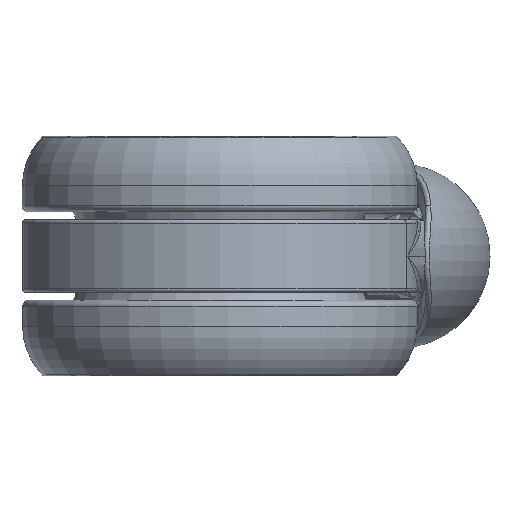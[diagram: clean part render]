
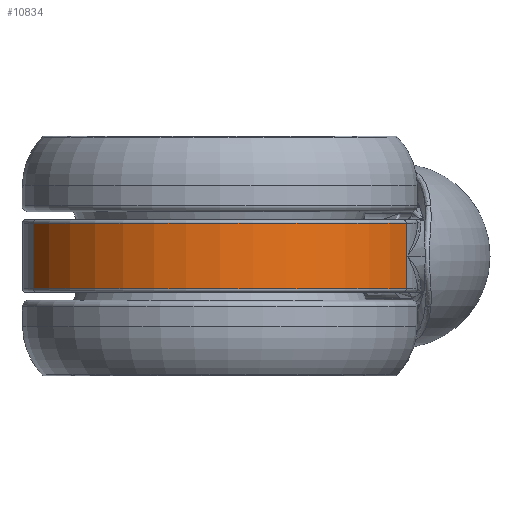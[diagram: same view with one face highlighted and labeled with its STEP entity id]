
A CAD part, front view. The second image highlights one B-rep face of the part: STEP entity #10834.
In plain terms, the highlighted cylindrical face has radius 30.924 mm (diameter 61.847 mm), a partial arc.
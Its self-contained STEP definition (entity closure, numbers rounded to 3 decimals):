
#163 = LINE ( 'NONE', #13975, #9462 ) ;
#245 = DIRECTION ( 'NONE',  ( 0., 0., -1. ) ) ;
#336 = CARTESIAN_POINT ( 'NONE',  ( 0., 3.924, 12.5 ) ) ;
#374 = DIRECTION ( 'NONE',  ( 1., 0., 0. ) ) ;
#1278 = DIRECTION ( 'NONE',  ( -1., 0., 0. ) ) ;
#2275 = FACE_OUTER_BOUND ( 'NONE', #18732, .T. ) ;
#2505 = AXIS2_PLACEMENT_3D ( 'NONE', #13258, #24715, #1278 ) ;
#2648 = DIRECTION ( 'NONE',  ( -1., 0., 0. ) ) ;
#2988 = EDGE_CURVE ( 'NONE', #20648, #13592, #11264, .T. ) ;
#2996 = CARTESIAN_POINT ( 'NONE',  ( 28.273, -8.602, -5. ) ) ;
#3150 = VERTEX_POINT ( 'NONE', #2996 ) ;
#3301 = CARTESIAN_POINT ( 'NONE',  ( 28.273, -8.602, 12.5 ) ) ;
#4554 = ORIENTED_EDGE ( 'NONE', *, *, #23787, .T. ) ;
#5149 = EDGE_CURVE ( 'NONE', #13592, #18304, #163, .T. ) ;
#5838 = AXIS2_PLACEMENT_3D ( 'NONE', #12100, #245, #374 ) ;
#9462 = VECTOR ( 'NONE', #10197, 1000. ) ;
#10197 = DIRECTION ( 'NONE',  ( 0., 0., -1. ) ) ;
#10834 = ADVANCED_FACE ( 'NONE', ( #2275 ), #18678, .T. ) ;
#11264 = CIRCLE ( 'NONE', #5838, 30.924 ) ;
#11534 = LINE ( 'NONE', #3301, #23717 ) ;
#11595 = CARTESIAN_POINT ( 'NONE',  ( 28.273, -8.602, 5. ) ) ;
#12100 = CARTESIAN_POINT ( 'NONE',  ( 0., 3.924, 5. ) ) ;
#12610 = ORIENTED_EDGE ( 'NONE', *, *, #2988, .T. ) ;
#12885 = CARTESIAN_POINT ( 'NONE',  ( -28.273, -8.602, 5. ) ) ;
#13258 = CARTESIAN_POINT ( 'NONE',  ( 0., 3.924, -5. ) ) ;
#13592 = VERTEX_POINT ( 'NONE', #12885 ) ;
#13770 = CIRCLE ( 'NONE', #2505, 30.924 ) ;
#13975 = CARTESIAN_POINT ( 'NONE',  ( -28.273, -8.602, 12.5 ) ) ;
#15050 = EDGE_CURVE ( 'NONE', #18304, #3150, #13770, .T. ) ;
#15566 = CARTESIAN_POINT ( 'NONE',  ( -28.273, -8.602, -5. ) ) ;
#15923 = ORIENTED_EDGE ( 'NONE', *, *, #15050, .T. ) ;
#17395 = DIRECTION ( 'NONE',  ( 0., 0., 1. ) ) ;
#18304 = VERTEX_POINT ( 'NONE', #15566 ) ;
#18678 = CYLINDRICAL_SURFACE ( 'NONE', #23801, 30.924 ) ;
#18732 = EDGE_LOOP ( 'NONE', ( #23351, #15923, #4554, #12610 ) ) ;
#20498 = DIRECTION ( 'NONE',  ( 0., 0., -1. ) ) ;
#20648 = VERTEX_POINT ( 'NONE', #11595 ) ;
#23351 = ORIENTED_EDGE ( 'NONE', *, *, #5149, .T. ) ;
#23717 = VECTOR ( 'NONE', #17395, 1000. ) ;
#23787 = EDGE_CURVE ( 'NONE', #3150, #20648, #11534, .T. ) ;
#23801 = AXIS2_PLACEMENT_3D ( 'NONE', #336, #20498, #2648 ) ;
#24715 = DIRECTION ( 'NONE',  ( 0., 0., 1. ) ) ;
